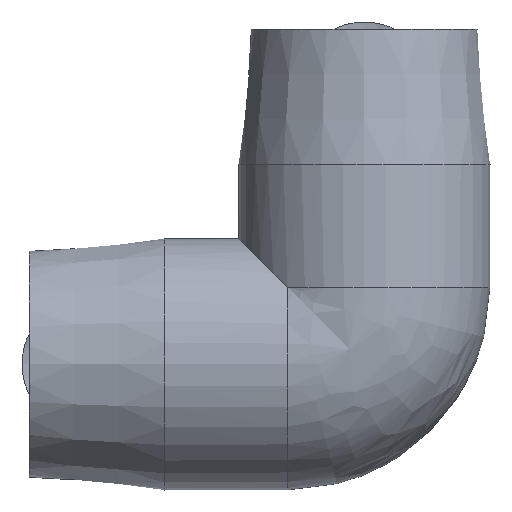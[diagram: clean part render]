
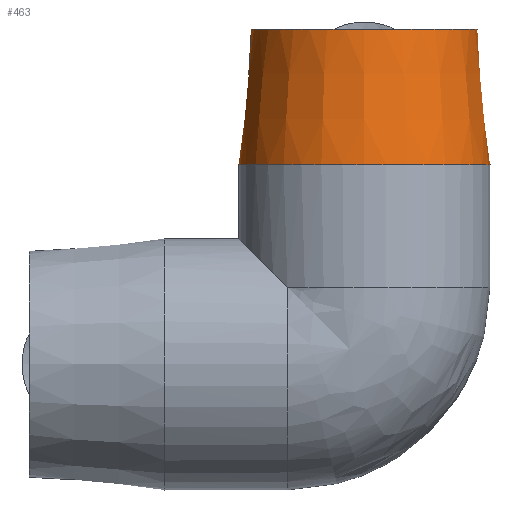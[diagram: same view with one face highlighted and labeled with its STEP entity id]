
A CAD part, front view. The second image highlights one B-rep face of the part: STEP entity #463.
In plain terms, the highlighted conical face has half-angle 5.298 degrees and reference radius 17.1 mm.
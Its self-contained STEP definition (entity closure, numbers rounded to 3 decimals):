
#15=B_SPLINE_CURVE_WITH_KNOTS('',3,(#812,#813,#814,#815,#816,#817,#818,
#819,#820,#821,#822,#823,#824,#825,#826,#827,#828,#829,#830,#831,#832,#833,
#834,#835,#836,#837),.UNSPECIFIED.,.F.,.F.,(4,2,2,2,2,2,2,2,2,2,2,2,4),
(-4.042,-3.772,-3.422,-3.247,
-3.073,-2.681,-2.289,-1.913,
-1.536,-1.16,-0.784,-0.392,
0.),.UNSPECIFIED.);
#18=B_SPLINE_CURVE_WITH_KNOTS('',3,(#853,#854,#855,#856,#857,#858,#859,
#860,#861,#862),.UNSPECIFIED.,.F.,.F.,(4,2,2,2,4),(0.,0.175,
0.349,0.699,0.969),.UNSPECIFIED.);
#26=CONICAL_SURFACE('',#545,17.1,0.092);
#65=LINE('',#881,#82);
#82=VECTOR('',#674,17.1);
#109=FACE_OUTER_BOUND('',#147,.T.);
#147=EDGE_LOOP('',(#376,#377,#378,#379,#380,#381,#382));
#182=CIRCLE('',#532,18.);
#187=CIRCLE('',#543,16.2);
#188=CIRCLE('',#544,16.2);
#218=VERTEX_POINT('',#806);
#219=VERTEX_POINT('',#810);
#220=VERTEX_POINT('',#811);
#222=VERTEX_POINT('',#846);
#226=VERTEX_POINT('',#877);
#267=EDGE_CURVE('',#218,#218,#182,.T.);
#268=EDGE_CURVE('',#219,#220,#15,.T.);
#272=EDGE_CURVE('',#220,#222,#18,.T.);
#279=EDGE_CURVE('',#226,#219,#187,.T.);
#280=EDGE_CURVE('',#222,#226,#188,.T.);
#281=EDGE_CURVE('',#218,#226,#65,.T.);
#376=ORIENTED_EDGE('',*,*,#267,.F.);
#377=ORIENTED_EDGE('',*,*,#281,.T.);
#378=ORIENTED_EDGE('',*,*,#279,.T.);
#379=ORIENTED_EDGE('',*,*,#268,.T.);
#380=ORIENTED_EDGE('',*,*,#272,.T.);
#381=ORIENTED_EDGE('',*,*,#280,.T.);
#382=ORIENTED_EDGE('',*,*,#281,.F.);
#463=ADVANCED_FACE('',(#109),#26,.T.);
#532=AXIS2_PLACEMENT_3D('',#808,#643,#644);
#543=AXIS2_PLACEMENT_3D('',#878,#668,#669);
#544=AXIS2_PLACEMENT_3D('',#879,#670,#671);
#545=AXIS2_PLACEMENT_3D('',#880,#672,#673);
#643=DIRECTION('center_axis',(0.,0.,
-1.));
#644=DIRECTION('ref_axis',(-1.,0.,0.));
#668=DIRECTION('center_axis',(0.,0.,
-1.));
#669=DIRECTION('ref_axis',(-1.,0.,0.));
#670=DIRECTION('center_axis',(0.,0.,
-1.));
#671=DIRECTION('ref_axis',(-1.,0.,0.));
#672=DIRECTION('center_axis',(0.,0.,
-1.));
#673=DIRECTION('ref_axis',(0.,1.,0.));
#674=DIRECTION('',(0.,0.092,0.996));
#806=CARTESIAN_POINT('',(0.,-18.,28.588));
#808=CARTESIAN_POINT('Origin',(0.,0.,
28.588));
#810=CARTESIAN_POINT('',(-4.35,15.605,48.));
#811=CARTESIAN_POINT('',(9.587,13.949,40.168));
#812=CARTESIAN_POINT('Ctrl Pts',(-4.35,15.605,48.));
#813=CARTESIAN_POINT('Ctrl Pts',(-5.188,15.411,47.585));
#814=CARTESIAN_POINT('Ctrl Pts',(-5.951,15.177,47.052));
#815=CARTESIAN_POINT('Ctrl Pts',(-7.424,14.664,45.699));
#816=CARTESIAN_POINT('Ctrl Pts',(-8.173,14.349,44.723));
#817=CARTESIAN_POINT('Ctrl Pts',(-8.961,14.042,43.085));
#818=CARTESIAN_POINT('Ctrl Pts',(-9.171,13.968,42.51));
#819=CARTESIAN_POINT('Ctrl Pts',(-9.469,13.899,41.341));
#820=CARTESIAN_POINT('Ctrl Pts',(-9.557,13.905,40.748));
#821=CARTESIAN_POINT('Ctrl Pts',(-9.656,14.049,38.867));
#822=CARTESIAN_POINT('Ctrl Pts',(-9.431,14.363,37.527));
#823=CARTESIAN_POINT('Ctrl Pts',(-8.461,15.213,35.101));
#824=CARTESIAN_POINT('Ctrl Pts',(-7.715,15.735,34.011));
#825=CARTESIAN_POINT('Ctrl Pts',(-6.012,16.625,32.318));
#826=CARTESIAN_POINT('Ctrl Pts',(-4.947,17.062,31.583));
#827=CARTESIAN_POINT('Ctrl Pts',(-2.569,17.671,30.592));
#828=CARTESIAN_POINT('Ctrl Pts',(-1.254,17.838,30.336));
#829=CARTESIAN_POINT('Ctrl Pts',(1.254,17.838,30.336));
#830=CARTESIAN_POINT('Ctrl Pts',(2.569,17.671,30.592));
#831=CARTESIAN_POINT('Ctrl Pts',(4.947,17.062,31.583));
#832=CARTESIAN_POINT('Ctrl Pts',(6.012,16.625,32.318));
#833=CARTESIAN_POINT('Ctrl Pts',(7.715,15.735,34.011));
#834=CARTESIAN_POINT('Ctrl Pts',(8.461,15.213,35.101));
#835=CARTESIAN_POINT('Ctrl Pts',(9.431,14.363,37.527));
#836=CARTESIAN_POINT('Ctrl Pts',(9.656,14.049,38.867));
#837=CARTESIAN_POINT('Ctrl Pts',(9.587,13.949,40.168));
#846=CARTESIAN_POINT('',(4.35,15.605,48.));
#853=CARTESIAN_POINT('Ctrl Pts',(9.587,13.949,40.168));
#854=CARTESIAN_POINT('Ctrl Pts',(9.557,13.905,40.748));
#855=CARTESIAN_POINT('Ctrl Pts',(9.469,13.899,41.341));
#856=CARTESIAN_POINT('Ctrl Pts',(9.171,13.968,42.51));
#857=CARTESIAN_POINT('Ctrl Pts',(8.961,14.042,43.085));
#858=CARTESIAN_POINT('Ctrl Pts',(8.173,14.349,44.723));
#859=CARTESIAN_POINT('Ctrl Pts',(7.424,14.664,45.699));
#860=CARTESIAN_POINT('Ctrl Pts',(5.951,15.177,47.052));
#861=CARTESIAN_POINT('Ctrl Pts',(5.188,15.411,47.585));
#862=CARTESIAN_POINT('Ctrl Pts',(4.35,15.605,48.));
#877=CARTESIAN_POINT('',(0.,-16.2,48.));
#878=CARTESIAN_POINT('Origin',(0.,0.,
48.));
#879=CARTESIAN_POINT('Origin',(0.,0.,
48.));
#880=CARTESIAN_POINT('Origin',(0.,0.,
38.294));
#881=CARTESIAN_POINT('',(0.,-17.1,38.294));
